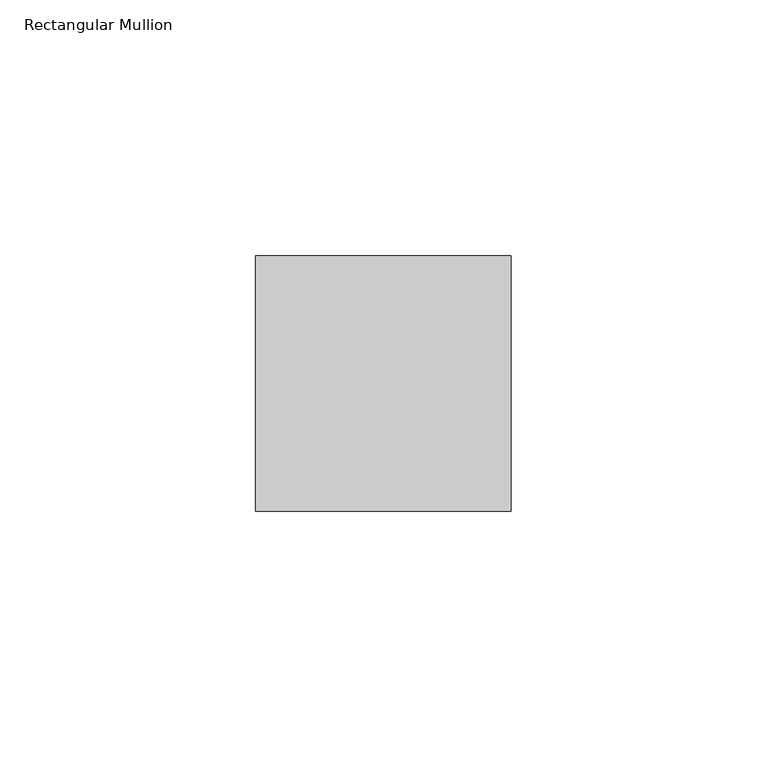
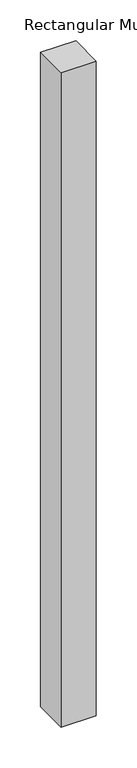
"""IFC4 building model written with IfcOpenShell, lengths in millimetres: member geometry, Rectangular Mullion : ARQ_REJA_MULL_50x50mm."""

from ifc_helpers import new_model, si_unit, frame, origin, place, context, project, spatial, polyline, outline, extrude, source, transform, mapped, element, save


def rectangular_mullion_9e2e89eb(model_context):
    return source(origin(), model_context, "Body", "SweptSolid", [
        extrude(outline(polyline([(25.0, 25.0), (25.0, -25.0), (-25.0, -25.0), (-25.0, 25.0), (25.0, 25.0)])), frame((0.0, 0.0, -980.0), z_axis=(0.0, 0.0, 1.0), x_axis=(1.0, 0.0, 0.0)), (0.0, 0.0, 1.0), 980.0),
    ])


if __name__ == "__main__":
    model = new_model("IFC4")
    model_context = context("Model", 3, world=origin())
    ifc_project = project(units=[si_unit("LENGTHUNIT", "METRE", prefix="MILLI")], contexts=[model_context])
    site = spatial("IfcSite", under=ifc_project)
    building = spatial("IfcBuilding", under=site)
    placement = place(None, origin())
    rectangular_mullion_shape = rectangular_mullion_9e2e89eb(model_context)
    element("IfcMember", 1, ObjectType="Rectangular Mullion : ARQ_REJA_MULL_50x50mm", at=placement, inside=building, context=model_context, shape_type="MappedRepresentation", body=[
        mapped(rectangular_mullion_shape, transform((0.0, 0.0, 0.0), x_axis=(1.0, 0.0, 0.0), y_axis=(0.0, 1.0, 0.0), z_axis=(0.0, 0.0, 1.0))),
    ])
    save(model, "model.ifc")
